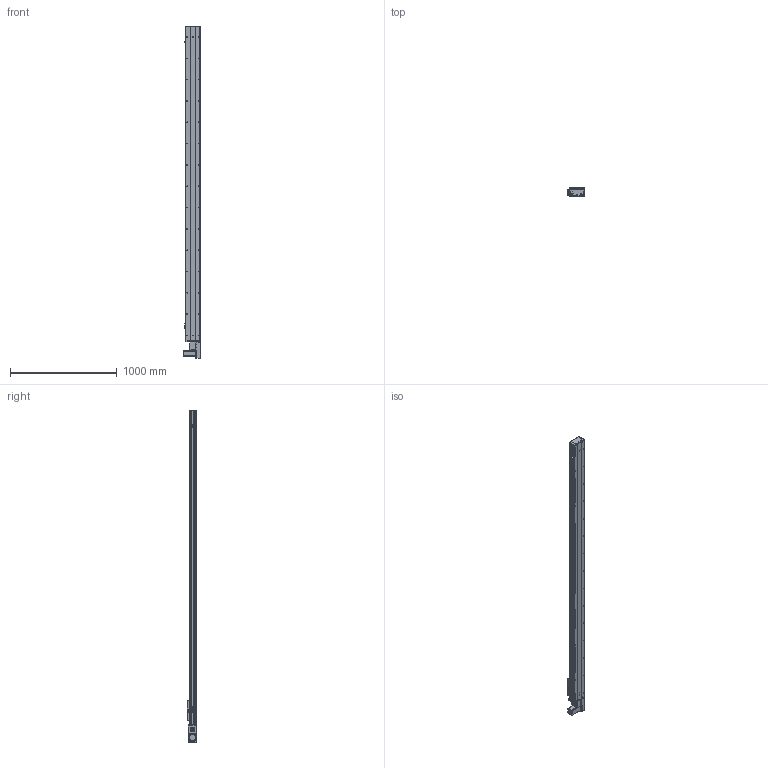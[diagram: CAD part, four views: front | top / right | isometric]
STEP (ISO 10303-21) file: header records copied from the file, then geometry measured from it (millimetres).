
FILE_DESCRIPTION (( 'STEP AP203' ), '1' );
FILE_NAME ('Y135CB-D90-S2650-BL-P400W.STEP', '2020-02-18T01:43:00', ( '微软用户' ), ( '微软中国' ), 'SwSTEP 2.0', 'SolidWorks 2017', '' );
FILE_SCHEMA (( 'CONFIG_CONTROL_DESIGN' ));
Length unit declared in the file: millimetre
Products named in the file (18): C-雄赽釱--; 0B-源倛裔啣; Y135CB-D90-S2650-BL-P400W; 0B-萇儂楊擘啣; Y135CB-耜裔; san松下电机400不带刹车----; 135CB---遴掛极.-; 5CB --掛极耜裔啣-; 35CB---喘謫眊楊擘啣; C-詩湍揤踡え-陔; 135CB--詩湍-CE; Y10B--々湍喘謫眊--666; Y100-135俋离換覜ん--; Y10B-耜蚾蟀諉啣----; Y135C-陔俋离換覜結え-; Y俋欶BR----; 5C--俋欶; 0B-埴倛裔啣
Assembly tree (21 placements, depth 2):
  Y135CB-D90-S2650-BL-P400W
    Y135CB-耜裔
    135CB---遴掛极.-
    35CB---喘謫眊楊擘啣
    Y10B--々湍喘謫眊--666
    Y10B-耜蚾蟀諉啣----
    Y俋欶BR----
    0B-埴倛裔啣
    0B-源倛裔啣
    0B-萇儂楊擘啣
    san松下电机400不带刹车----
    5CB --掛极耜裔啣-  x2
    C-詩湍揤踡え-陔  x2
    135CB--詩湍-CE
    Y100-135俋离換覜ん--  x3
    Y135C-陔俋离換覜結え-
    5C--俋欶
    C-雄赽釱--
Bounding box: 157.5 x 91 x 3114.5 mm (x, y, z)
Volume: 8672262.8 mm3; surface area: 3437461.3 mm2
Topology: 21 solids, 21 shells, 977 faces, 2671 edges, 1770 vertices
Faces by surface type: cylinder 503, plane 458, cone 16
Entity records: 30957 total; most frequent: CARTESIAN_POINT 5164, DIRECTION 5143, ORIENTED_EDGE 4818, EDGE_CURVE 2409, AXIS2_PLACEMENT_3D 1885, VERTEX_POINT 1598, LINE 1373, VECTOR 1373
